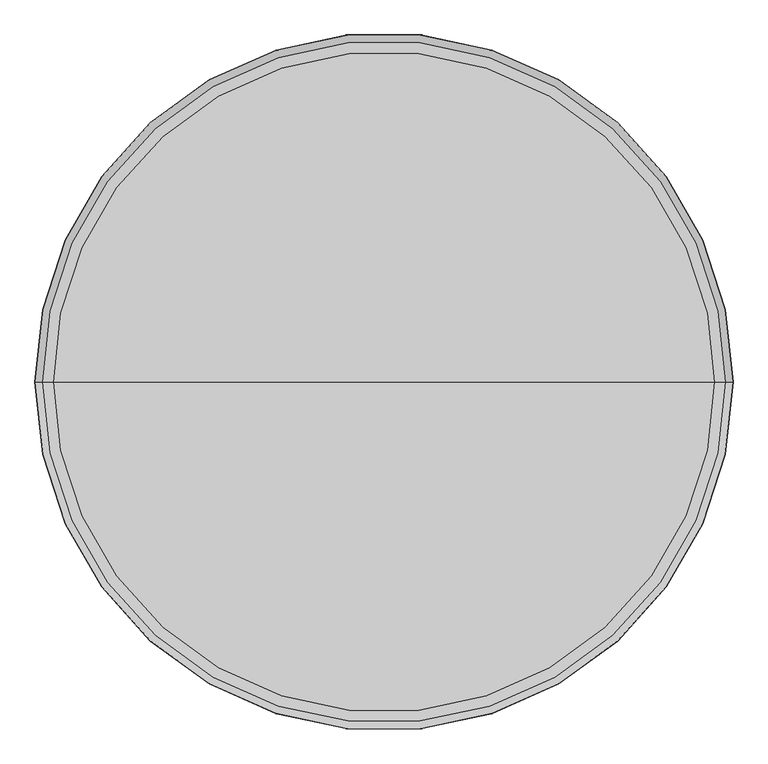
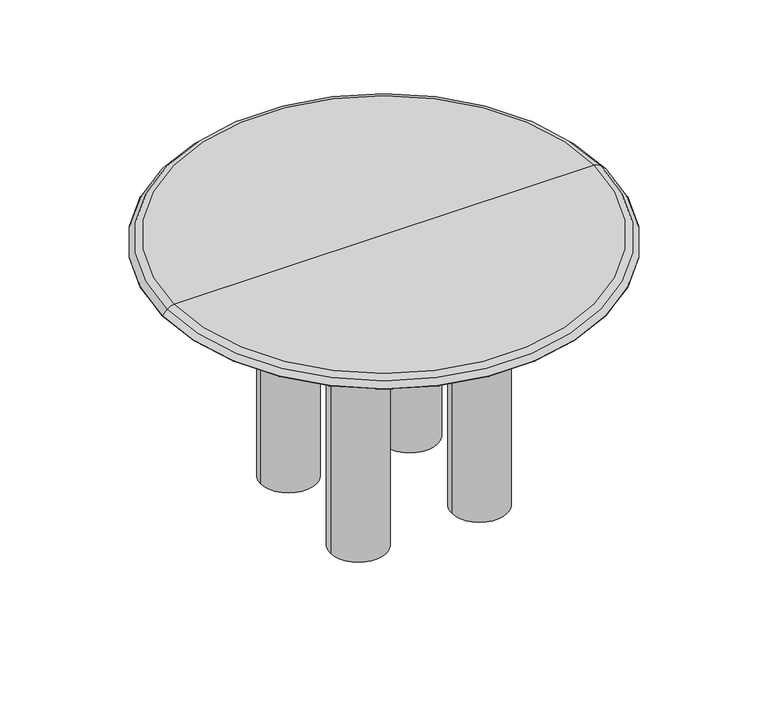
"""IFC4 building model written with IfcOpenShell, lengths in millimetres: furniture geometry, Fredericia - Islet Dining Table - 6775 : Fredericia - Islet Dining Table - 6775."""

from ifc_helpers import new_model, si_unit, point, frame, frame_2d, origin, origin_with_axes, place, context, project, spatial, polyline, circle_curve, ellipse_curve, trimmed, segment, composite_curve, outline, extrude, source, transform, mapped, element, save
from ifc_brep_helpers import plane_surface, revolved_surface, advanced_brep


def furniture_0e523939(model_context):
    return source(origin(), model_context, "Body", "SolidModel", [
        extrude(outline(composite_curve([segment(trimmed(circle_curve(frame_2d((-163.4637205, -163.1205473)), 75.0), [point((-238.4637205, -163.1205473))], [point((-88.4637205, -163.1205473))], False, "CARTESIAN"), True, "CONTINUOUS"), segment(trimmed(circle_curve(frame_2d((-163.4637205, -163.1205473)), 75.0), [point((-88.4637205, -163.1205473))], [point((-238.4637205, -163.1205473))], False, "CARTESIAN"), True, "CONTINUOUS")], self_intersect=False)), origin_with_axes(), (0.0, 0.0, 1.0), 706.6274229),
        extrude(outline(composite_curve([segment(trimmed(circle_curve(frame_2d((163.4637205, -163.1205473)), 75.0), [point((238.4637205, -163.1205473))], [point((88.4637205, -163.1205473))], False, "CARTESIAN"), True, "CONTINUOUS"), segment(trimmed(circle_curve(frame_2d((163.4637205, -163.1205473)), 75.0), [point((88.4637205, -163.1205473))], [point((238.4637205, -163.1205473))], False, "CARTESIAN"), True, "CONTINUOUS")], self_intersect=False)), origin_with_axes(), (0.0, 0.0, 1.0), 706.6274229),
        extrude(outline(composite_curve([segment(trimmed(circle_curve(frame_2d((-163.4637205, 163.1205473)), 75.0), [point((-238.4637205, 163.1205473))], [point((-88.4637205, 163.1205473))], False, "CARTESIAN"), True, "CONTINUOUS"), segment(trimmed(circle_curve(frame_2d((-163.4637205, 163.1205473)), 75.0), [point((-88.4637205, 163.1205473))], [point((-238.4637205, 163.1205473))], False, "CARTESIAN"), True, "CONTINUOUS")], self_intersect=False)), origin_with_axes(), (0.0, 0.0, 1.0), 706.6274229),
        extrude(outline(composite_curve([segment(trimmed(circle_curve(frame_2d((163.4637205, 163.1205473)), 75.0), [point((238.4637205, 163.1205473))], [point((88.4637205, 163.1205473))], False, "CARTESIAN"), True, "CONTINUOUS"), segment(trimmed(circle_curve(frame_2d((163.4637205, 163.1205473)), 75.0), [point((88.4637205, 163.1205473))], [point((238.4637205, 163.1205473))], False, "CARTESIAN"), True, "CONTINUOUS")], self_intersect=False)), origin_with_axes(), (0.0, 0.0, 1.0), 706.6274229),
        advanced_brep(
        [(565.9332768, 0.0, 726.4902199), (-565.9332768, 0.0, 726.4902199), (0.0, 0.0, 726.4902199), (584.627494, 0.0, 718.7468216), (-584.627494, 0.0, 718.7468216), (598.0075961, 0.0, 705.3667195), (-598.0075961, 0.0, 705.3667195), (597.4780905, 0.0, 704.0883801), (-597.4780905, 0.0, 704.0883801), (0.0, 0.0, 704.0883801)],
        [
            (0, 1, circle_curve(frame((0.0, 0.0, 726.4902199), z_axis=(0.0, 0.0, 1.0), x_axis=(-1.0, 0.0, 0.0)), 565.9332768)),
            (1, 2),
            (2, 0),
            (1, 0, circle_curve(frame((0.0, 0.0, 726.4902199), z_axis=(0.0, 0.0, 1.0), x_axis=(-1.0, 0.0, 0.0)), 565.9332768)),
            (3, 4, circle_curve(frame((0.0, 0.0, 718.7468216), z_axis=(0.0, 0.0, 1.0), x_axis=(-1.0, 0.0, 0.0)), 584.627494)),
            (4, 1, circle_curve(frame((-565.9332768, 0.0, 700.0526044), z_axis=(0.0, 1.0, 0.0), x_axis=(1.0, 0.0, 0.0)), 26.4376155)),
            (0, 3, circle_curve(frame((565.9332768, 0.0, 700.0526044), z_axis=(0.0, 1.0, 0.0), x_axis=(-1.0, 0.0, 0.0)), 26.4376155)),
            (4, 3, circle_curve(frame((0.0, 0.0, 718.7468216), z_axis=(0.0, 0.0, 1.0), x_axis=(-1.0, 0.0, 0.0)), 584.627494)),
            (5, 6, circle_curve(frame((0.0, 0.0, 705.3667195), z_axis=(0.0, 0.0, 1.0), x_axis=(-1.0, 0.0, 0.0)), 598.0075961)),
            (6, 4),
            (3, 5),
            (6, 5, circle_curve(frame((0.0, 0.0, 705.3667195), z_axis=(0.0, 0.0, 1.0), x_axis=(-1.0, 0.0, 0.0)), 598.0075961)),
            (7, 8, circle_curve(frame((0.0, 0.0, 704.0883801), z_axis=(0.0, 0.0, 1.0), x_axis=(-1.0, 0.0, 0.0)), 597.4780905)),
            (8, 6, circle_curve(frame((-597.4780905, 0.0, 704.837214), z_axis=(0.0, 1.0, 0.0), x_axis=(1.0, 0.0, 0.0)), 0.7488339)),
            (5, 7, circle_curve(frame((597.4780905, 0.0, 704.837214), z_axis=(0.0, 1.0, 0.0), x_axis=(-1.0, 0.0, 0.0)), 0.7488339)),
            (8, 7, circle_curve(frame((0.0, 0.0, 704.0883801), z_axis=(0.0, 0.0, 1.0), x_axis=(-1.0, 0.0, 0.0)), 597.4780905)),
            (9, 8),
            (7, 9),
        ],
        [
            plane_surface(frame((0.0, 0.0, 726.4902199), z_axis=(0.0, 0.0, 1.0), x_axis=(-1.0, 0.0, 0.0))),
            revolved_surface(trimmed(ellipse_curve(frame((-565.9332768, 0.0, 700.0526044), z_axis=(0.0, -1.0, 0.0), x_axis=(1.0, 0.0, 0.0)), 26.4376155, 26.4376155), [point((-565.9332768, 0.0, 726.4902199))], [point((-584.627494, 0.0, 718.7468216))], True, "CARTESIAN"), (0.0, 0.0, 890.0), (0.0, 0.0, -1.0)),
            revolved_surface(polyline([(-584.627494, 0.0, 718.7468216), (-598.0075961, 0.0, 705.3667195)]), (0.0, 0.0, 890.0), (0.0, 0.0, -1.0)),
            revolved_surface(trimmed(ellipse_curve(frame((-597.4780905, 0.0, 704.837214), z_axis=(0.0, -1.0, 0.0), x_axis=(1.0, 0.0, 0.0)), 0.7488339, 0.7488339), [point((-598.0075961, 0.0, 705.3667195))], [point((-597.4780905, 0.0, 704.0883801))], True, "CARTESIAN"), (0.0, 0.0, 890.0), (0.0, 0.0, -1.0)),
            plane_surface(frame((0.0, 0.0, 704.0883801), z_axis=(0.0, 0.0, -1.0), x_axis=(-1.0, 0.0, 0.0))),
        ],
        [
            (0, [[1, 2, 3]]),
            (0, [[4, -3, -2]]),
            (1, [[5, 6, -1, 7]]),
            (1, [[8, -7, -4, -6]]),
            (2, [[9, 10, -5, 11]]),
            (2, [[12, -11, -8, -10]]),
            (3, [[13, 14, -9, 15]]),
            (3, [[16, -15, -12, -14]]),
            (4, [[17, -13, 18]]),
            (4, [[-18, -16, -17]]),
        ],
    ),
    ])


if __name__ == "__main__":
    model = new_model("IFC4")
    model_context = context("Model", 3, world=origin())
    ifc_project = project(units=[si_unit("LENGTHUNIT", "METRE", prefix="MILLI")], contexts=[model_context])
    site = spatial("IfcSite", under=ifc_project)
    building = spatial("IfcBuilding", under=site)
    placement = place(None, origin())
    furniture_shape = furniture_0e523939(model_context)
    element("IfcFurniture", 1, ObjectType="Fredericia - Islet Dining Table - 6775 : Fredericia - Islet Dining Table - 6775", at=placement, inside=building, context=model_context, shape_type="MappedRepresentation", body=[
        mapped(furniture_shape, transform((0.0, 0.0, 0.0), x_axis=(1.0, 0.0, 0.0), y_axis=(0.0, 1.0, 0.0), z_axis=(0.0, 0.0, 1.0))),
    ])
    save(model, "model.ifc")
